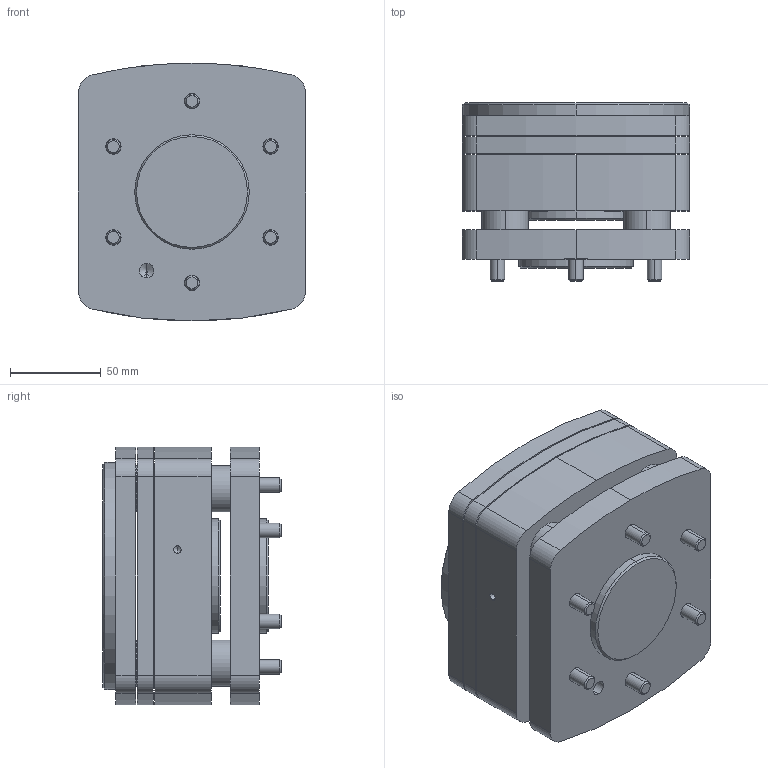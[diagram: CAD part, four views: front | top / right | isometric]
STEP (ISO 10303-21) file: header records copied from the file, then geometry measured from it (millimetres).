
FILE_DESCRIPTION (( 'STEP AP203' ), '1' );
FILE_NAME ('OFU-XYZ100.STEP', '2025-02-05T02:34:48', ( 'Windows 蚚誧' ), ( 'Organization' ), 'SwSTEP 2.0', 'SolidWorks 2018', '' );
FILE_SCHEMA (( 'CONFIG_CONTROL_DESIGN' ));
Length unit declared in the file: millimetre
Products named in the file (11): OFU-XYZ100.sldasm-Part-9; OFU-XYZ100.sldasm-Part-10; OFU-XYZ100.sldasm-Part-8; OFU-XYZ100.sldasm-Part-1; OFU-XYZ100.sldasm-Part-6; OFU-XYZ100.sldasm-Part-2; OFU-XYZ100.sldasm-Part-7; OFU-XYZ100.sldasm-Part-3; OFU-XYZ100.sldasm-Part-5; OFU-XYZ100.sldasm-Part-4; OFU-XYZ100
Assembly tree (10 placements, depth 2):
  OFU-XYZ100
    OFU-XYZ100.sldasm-Part-1
    OFU-XYZ100.sldasm-Part-2
    OFU-XYZ100.sldasm-Part-3
    OFU-XYZ100.sldasm-Part-4
    OFU-XYZ100.sldasm-Part-5
    OFU-XYZ100.sldasm-Part-6
    OFU-XYZ100.sldasm-Part-7
    OFU-XYZ100.sldasm-Part-8
    OFU-XYZ100.sldasm-Part-9
    OFU-XYZ100.sldasm-Part-10
Bounding box: 125 x 98 x 142 mm (x, y, z)
Volume: 1197347.4 mm3; surface area: 199606.7 mm2
Topology: 10 solids, 10 shells, 452 faces, 1064 edges, 658 vertices
Faces by surface type: cylinder 178, plane 140, cone 98, bspline 36
Entity records: 15531 total; most frequent: CARTESIAN_POINT 3825, DIRECTION 2360, ORIENTED_EDGE 2080, EDGE_CURVE 1040, AXIS2_PLACEMENT_3D 957, VERTEX_POINT 658, EDGE_LOOP 550, CIRCLE 528
